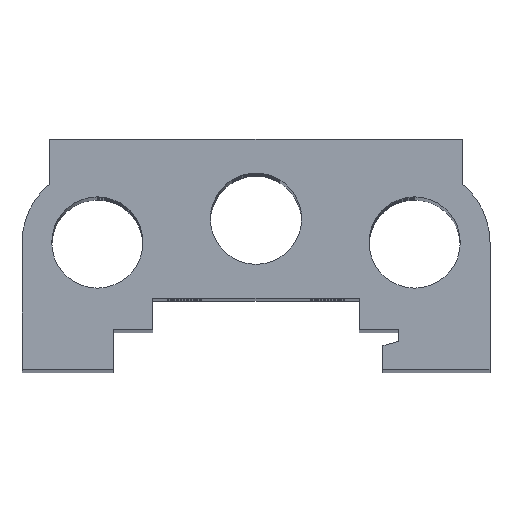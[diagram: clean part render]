
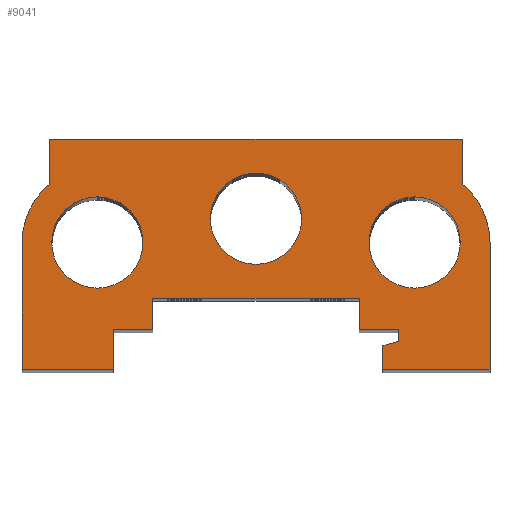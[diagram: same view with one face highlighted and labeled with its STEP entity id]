
A CAD part, top view. The second image highlights one B-rep face of the part: STEP entity #9041.
In plain terms, the highlighted planar face has unit normal (0, 0, 1).
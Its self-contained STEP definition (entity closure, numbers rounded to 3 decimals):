
#8003=CARTESIAN_POINT('',(25.75,16.0,232.));
#8004=VERTEX_POINT('',#8003);
#8005=CARTESIAN_POINT('',(20.0,16.0,232.));
#8006=DIRECTION('',(0.0,0.0,-1.0));
#8007=DIRECTION('',(-1.0,0.0,0.0));
#8008=AXIS2_PLACEMENT_3D('',#8005,#8006,#8007);
#8009=CIRCLE('',#8008,5.75);
#8010=EDGE_CURVE('',#8004,#8004,#8009,.T.);
#8063=CARTESIAN_POINT('',(5.75,19.0,232.));
#8064=VERTEX_POINT('',#8063);
#8065=CARTESIAN_POINT('',(0.0,19.0,232.));
#8066=DIRECTION('',(0.0,0.0,-1.0));
#8067=DIRECTION('',(-1.0,0.0,0.0));
#8068=AXIS2_PLACEMENT_3D('',#8065,#8066,#8067);
#8069=CIRCLE('',#8068,5.75);
#8070=EDGE_CURVE('',#8064,#8064,#8069,.T.);
#8115=CARTESIAN_POINT('',(-14.25,16.0,232.));
#8116=VERTEX_POINT('',#8115);
#8117=CARTESIAN_POINT('',(-20.0,16.0,232.));
#8118=DIRECTION('',(0.0,0.0,-1.0));
#8119=DIRECTION('',(-1.0,0.0,0.0));
#8120=AXIS2_PLACEMENT_3D('',#8117,#8118,#8119);
#8121=CIRCLE('',#8120,5.75);
#8122=EDGE_CURVE('',#8116,#8116,#8121,.T.);
#8175=CARTESIAN_POINT('',(-29.5,16.,232.));
#8176=VERTEX_POINT('',#8175);
#8177=CARTESIAN_POINT('',(-26.,23.365,232.));
#8178=VERTEX_POINT('',#8177);
#8179=CARTESIAN_POINT('',(-20.0,16.0,232.));
#8180=DIRECTION('',(0.0,0.0,-1.0));
#8181=DIRECTION('',(-0.632,0.775,0.0));
#8182=AXIS2_PLACEMENT_3D('',#8179,#8180,#8181);
#8183=CIRCLE('',#8182,9.5);
#8184=EDGE_CURVE('',#8176,#8178,#8183,.T.);
#8217=CARTESIAN_POINT('',(-26.,29.,232.));
#8218=VERTEX_POINT('',#8217);
#8219=CARTESIAN_POINT('',(-26.,23.365,232.));
#8220=DIRECTION('',(0.0,1.0,0.0));
#8221=VECTOR('',#8220,5.635);
#8222=LINE('',#8219,#8221);
#8223=EDGE_CURVE('',#8178,#8218,#8222,.T.);
#8248=CARTESIAN_POINT('',(26.,29.,232.));
#8249=VERTEX_POINT('',#8248);
#8250=CARTESIAN_POINT('',(-26.,29.,232.));
#8251=DIRECTION('',(1.0,0.0,0.0));
#8252=VECTOR('',#8251,52.);
#8253=LINE('',#8250,#8252);
#8254=EDGE_CURVE('',#8218,#8249,#8253,.T.);
#8459=CARTESIAN_POINT('',(26.0,23.365,232.));
#8460=VERTEX_POINT('',#8459);
#8461=CARTESIAN_POINT('',(26.,29.,232.));
#8462=DIRECTION('',(0.0,-1.0,0.0));
#8463=VECTOR('',#8462,5.635);
#8464=LINE('',#8461,#8463);
#8465=EDGE_CURVE('',#8249,#8460,#8464,.T.);
#8490=CARTESIAN_POINT('',(29.5,16.0,232.));
#8491=VERTEX_POINT('',#8490);
#8492=CARTESIAN_POINT('',(20.0,16.0,232.));
#8493=DIRECTION('',(0.0,0.0,-1.0));
#8494=DIRECTION('',(1.0,0.0,0.0));
#8495=AXIS2_PLACEMENT_3D('',#8492,#8493,#8494);
#8496=CIRCLE('',#8495,9.5);
#8497=EDGE_CURVE('',#8460,#8491,#8496,.T.);
#8523=CARTESIAN_POINT('',(29.5,0.0,232.));
#8524=VERTEX_POINT('',#8523);
#8525=CARTESIAN_POINT('',(29.5,16.0,232.));
#8526=DIRECTION('',(0.0,-1.0,0.0));
#8527=VECTOR('',#8526,16.0);
#8528=LINE('',#8525,#8527);
#8529=EDGE_CURVE('',#8491,#8524,#8528,.T.);
#8554=CARTESIAN_POINT('',(16.,0.0,232.));
#8555=VERTEX_POINT('',#8554);
#8556=CARTESIAN_POINT('',(29.5,0.0,232.));
#8557=DIRECTION('',(-1.0,0.0,0.0));
#8558=VECTOR('',#8557,13.5);
#8559=LINE('',#8556,#8558);
#8560=EDGE_CURVE('',#8524,#8555,#8559,.T.);
#8585=CARTESIAN_POINT('',(16.,3.,232.));
#8586=VERTEX_POINT('',#8585);
#8587=CARTESIAN_POINT('',(16.,0.0,232.));
#8588=DIRECTION('',(0.0,1.0,0.0));
#8589=VECTOR('',#8588,3.);
#8590=LINE('',#8587,#8589);
#8591=EDGE_CURVE('',#8555,#8586,#8590,.T.);
#8616=CARTESIAN_POINT('',(18.0,3.536,232.));
#8617=VERTEX_POINT('',#8616);
#8618=CARTESIAN_POINT('',(16.,3.,232.));
#8619=DIRECTION('',(0.966,0.259,0.0));
#8620=VECTOR('',#8619,2.071);
#8621=LINE('',#8618,#8620);
#8622=EDGE_CURVE('',#8586,#8617,#8621,.T.);
#8647=CARTESIAN_POINT('',(18.,5.0,232.));
#8648=VERTEX_POINT('',#8647);
#8649=CARTESIAN_POINT('',(18.0,3.536,232.));
#8650=DIRECTION('',(0.0,1.0,0.0));
#8651=VECTOR('',#8650,1.464);
#8652=LINE('',#8649,#8651);
#8653=EDGE_CURVE('',#8617,#8648,#8652,.T.);
#8678=CARTESIAN_POINT('',(13.0,5.0,232.));
#8679=VERTEX_POINT('',#8678);
#8680=CARTESIAN_POINT('',(18.,5.0,232.));
#8681=DIRECTION('',(-1.0,0.0,0.0));
#8682=VECTOR('',#8681,5.);
#8683=LINE('',#8680,#8682);
#8684=EDGE_CURVE('',#8648,#8679,#8683,.T.);
#8709=CARTESIAN_POINT('',(13.0,9.0,232.));
#8710=VERTEX_POINT('',#8709);
#8711=CARTESIAN_POINT('',(13.0,5.0,232.));
#8712=DIRECTION('',(0.0,1.0,0.0));
#8713=VECTOR('',#8712,4.0);
#8714=LINE('',#8711,#8713);
#8715=EDGE_CURVE('',#8679,#8710,#8714,.T.);
#8740=CARTESIAN_POINT('',(-13.0,9.0,232.));
#8741=VERTEX_POINT('',#8740);
#8742=CARTESIAN_POINT('',(13.0,9.0,232.));
#8743=DIRECTION('',(-1.0,0.0,0.0));
#8744=VECTOR('',#8743,26.0);
#8745=LINE('',#8742,#8744);
#8746=EDGE_CURVE('',#8710,#8741,#8745,.T.);
#8831=CARTESIAN_POINT('',(-13.0,5.0,232.));
#8832=VERTEX_POINT('',#8831);
#8833=CARTESIAN_POINT('',(-13.0,9.0,232.));
#8834=DIRECTION('',(0.0,-1.0,0.0));
#8835=VECTOR('',#8834,4.0);
#8836=LINE('',#8833,#8835);
#8837=EDGE_CURVE('',#8741,#8832,#8836,.T.);
#8862=CARTESIAN_POINT('',(-18.0,5.0,232.));
#8863=VERTEX_POINT('',#8862);
#8864=CARTESIAN_POINT('',(-13.0,5.0,232.));
#8865=DIRECTION('',(-1.0,0.0,0.0));
#8866=VECTOR('',#8865,5.0);
#8867=LINE('',#8864,#8866);
#8868=EDGE_CURVE('',#8832,#8863,#8867,.T.);
#8893=CARTESIAN_POINT('',(-18.0,0.0,232.));
#8894=VERTEX_POINT('',#8893);
#8895=CARTESIAN_POINT('',(-18.0,5.0,232.));
#8896=DIRECTION('',(0.0,-1.0,0.0));
#8897=VECTOR('',#8896,5.0);
#8898=LINE('',#8895,#8897);
#8899=EDGE_CURVE('',#8863,#8894,#8898,.T.);
#8924=CARTESIAN_POINT('',(-29.5,0.0,232.));
#8925=VERTEX_POINT('',#8924);
#8926=CARTESIAN_POINT('',(-18.0,0.0,232.));
#8927=DIRECTION('',(-1.0,0.0,0.0));
#8928=VECTOR('',#8927,11.5);
#8929=LINE('',#8926,#8928);
#8930=EDGE_CURVE('',#8894,#8925,#8929,.T.);
#8955=CARTESIAN_POINT('',(-29.5,0.0,232.));
#8956=DIRECTION('',(0.0,1.0,0.0));
#8957=VECTOR('',#8956,16.);
#8958=LINE('',#8955,#8957);
#8959=EDGE_CURVE('',#8925,#8176,#8958,.T.);
#9007=CARTESIAN_POINT('',(0.278,14.351,232.));
#9008=DIRECTION('',(0.0,0.0,1.0));
#9009=DIRECTION('',(1.0,0.0,0.0));
#9010=AXIS2_PLACEMENT_3D('',#9007,#9008,#9009);
#9011=PLANE('',#9010);
#9012=ORIENTED_EDGE('',*,*,#8184,.F.);
#9013=ORIENTED_EDGE('',*,*,#8959,.F.);
#9014=ORIENTED_EDGE('',*,*,#8930,.F.);
#9015=ORIENTED_EDGE('',*,*,#8899,.F.);
#9016=ORIENTED_EDGE('',*,*,#8868,.F.);
#9017=ORIENTED_EDGE('',*,*,#8837,.F.);
#9018=ORIENTED_EDGE('',*,*,#8746,.F.);
#9019=ORIENTED_EDGE('',*,*,#8715,.F.);
#9020=ORIENTED_EDGE('',*,*,#8684,.F.);
#9021=ORIENTED_EDGE('',*,*,#8653,.F.);
#9022=ORIENTED_EDGE('',*,*,#8622,.F.);
#9023=ORIENTED_EDGE('',*,*,#8591,.F.);
#9024=ORIENTED_EDGE('',*,*,#8560,.F.);
#9025=ORIENTED_EDGE('',*,*,#8529,.F.);
#9026=ORIENTED_EDGE('',*,*,#8497,.F.);
#9027=ORIENTED_EDGE('',*,*,#8465,.F.);
#9028=ORIENTED_EDGE('',*,*,#8254,.F.);
#9029=ORIENTED_EDGE('',*,*,#8223,.F.);
#9030=EDGE_LOOP('',(#9012,#9013,#9014,#9015,#9016,#9017,#9018,#9019,#9020,#9021,#9022,#9023,#9024,#9025,#9026,#9027,#9028,#9029));
#9031=FACE_OUTER_BOUND('',#9030,.T.);
#9032=ORIENTED_EDGE('',*,*,#8010,.T.);
#9033=EDGE_LOOP('',(#9032));
#9034=FACE_BOUND('',#9033,.T.);
#9035=ORIENTED_EDGE('',*,*,#8070,.T.);
#9036=EDGE_LOOP('',(#9035));
#9037=FACE_BOUND('',#9036,.T.);
#9038=ORIENTED_EDGE('',*,*,#8122,.T.);
#9039=EDGE_LOOP('',(#9038));
#9040=FACE_BOUND('',#9039,.T.);
#9041=ADVANCED_FACE('',(#9031,#9034,#9037,#9040),#9011,.T.);
